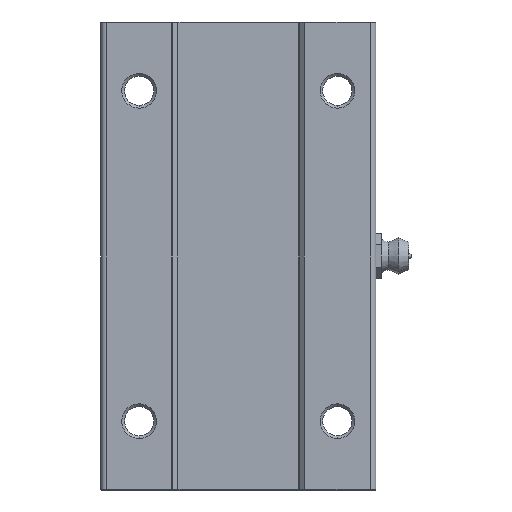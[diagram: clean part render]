
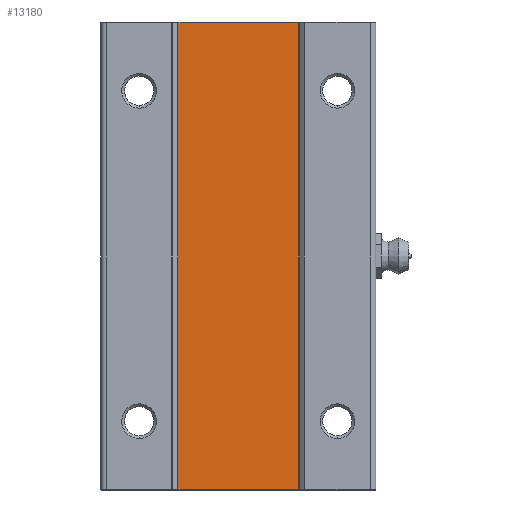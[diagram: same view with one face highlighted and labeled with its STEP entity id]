
A CAD part, front view. The second image highlights one B-rep face of the part: STEP entity #13180.
In plain terms, the highlighted planar face has unit normal (0, -1, 0).
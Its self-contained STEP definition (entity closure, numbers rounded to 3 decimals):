
#38 = CARTESIAN_POINT ( 'NONE',  ( -11., -18.8, 85. ) ) ;
#1062 = VECTOR ( 'NONE', #11475, 1000. ) ;
#1079 = EDGE_CURVE ( 'NONE', #5414, #3195, #5907, .T. ) ;
#1102 = CARTESIAN_POINT ( 'NONE',  ( -10.942, -18.8, 84.85 ) ) ;
#1280 = DIRECTION ( 'NONE',  ( 0., 1., 0. ) ) ;
#2225 = EDGE_CURVE ( 'NONE', #12585, #5414, #7983, .T. ) ;
#3110 = CARTESIAN_POINT ( 'NONE',  ( -11., -18.8, 84.85 ) ) ;
#3190 = CARTESIAN_POINT ( 'NONE',  ( 11., -18.8, 0.15 ) ) ;
#3195 = VERTEX_POINT ( 'NONE', #11029 ) ;
#3327 = CARTESIAN_POINT ( 'NONE',  ( 10.942, -18.8, 85. ) ) ;
#3462 = ORIENTED_EDGE ( 'NONE', *, *, #2225, .T. ) ;
#3747 = LINE ( 'NONE', #3110, #6641 ) ;
#3857 = EDGE_LOOP ( 'NONE', ( #14688, #6016, #7227, #3462 ) ) ;
#4578 = DIRECTION ( 'NONE',  ( 0., 0., 1. ) ) ;
#5414 = VERTEX_POINT ( 'NONE', #7881 ) ;
#5907 = LINE ( 'NONE', #3190, #12434 ) ;
#6016 = ORIENTED_EDGE ( 'NONE', *, *, #6239, .T. ) ;
#6239 = EDGE_CURVE ( 'NONE', #3195, #9336, #7531, .T. ) ;
#6641 = VECTOR ( 'NONE', #9215, 1000. ) ;
#6972 = FACE_OUTER_BOUND ( 'NONE', #3857, .T. ) ;
#7227 = ORIENTED_EDGE ( 'NONE', *, *, #11363, .T. ) ;
#7531 = LINE ( 'NONE', #3327, #13622 ) ;
#7881 = CARTESIAN_POINT ( 'NONE',  ( -10.942, -18.8, 0.15 ) ) ;
#7983 = LINE ( 'NONE', #10231, #1062 ) ;
#8530 = AXIS2_PLACEMENT_3D ( 'NONE', #38, #1280, #9837 ) ;
#9215 = DIRECTION ( 'NONE',  ( -1., 0., 0. ) ) ;
#9336 = VERTEX_POINT ( 'NONE', #9952 ) ;
#9837 = DIRECTION ( 'NONE',  ( -1., 0., 0. ) ) ;
#9952 = CARTESIAN_POINT ( 'NONE',  ( 10.942, -18.8, 84.85 ) ) ;
#10231 = CARTESIAN_POINT ( 'NONE',  ( -10.942, -18.8, 0. ) ) ;
#11029 = CARTESIAN_POINT ( 'NONE',  ( 10.942, -18.8, 0.15 ) ) ;
#11363 = EDGE_CURVE ( 'NONE', #9336, #12585, #3747, .T. ) ;
#11475 = DIRECTION ( 'NONE',  ( 0., 0., -1. ) ) ;
#11763 = DIRECTION ( 'NONE',  ( 1., 0., 0. ) ) ;
#12434 = VECTOR ( 'NONE', #11763, 1000. ) ;
#12585 = VERTEX_POINT ( 'NONE', #1102 ) ;
#13180 = ADVANCED_FACE ( 'NONE', ( #6972 ), #14697, .F. ) ;
#13622 = VECTOR ( 'NONE', #4578, 1000. ) ;
#14688 = ORIENTED_EDGE ( 'NONE', *, *, #1079, .T. ) ;
#14697 = PLANE ( 'NONE',  #8530 ) ;
